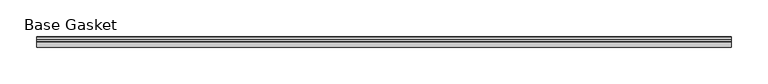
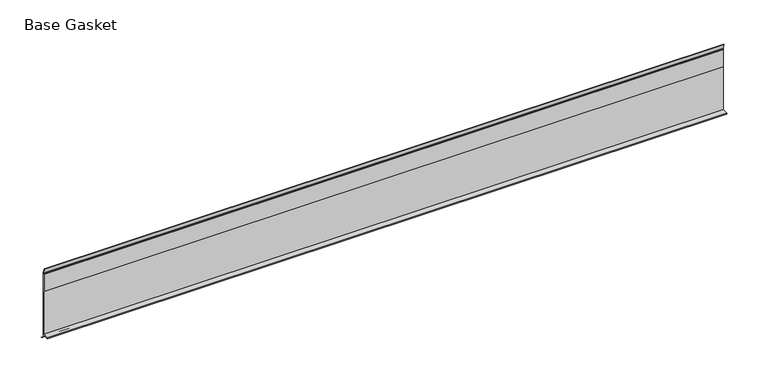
"""IFC4 building model written with IfcOpenShell, lengths in millimetres: furniture geometry, Gasket-Teknion-FHGB-AI_Healthcare-R2021 : Base Gasket."""

from ifc_helpers import new_model, si_unit, frame, origin, place, context, project, spatial, polyline, outline, extrude, source, transform, mapped, element, save


def base_gasket_0e477ec8(model_context):
    return source(origin(), model_context, "Body", "SweptSolid", [
        extrude(outline(polyline([(3.7283812, 98.4568417), (3.7283812, 4.3498477), (7.4222115, 0.6560174), (7.8482342, 0.0), (6.8281054, 0.3520979), (2.2043812, 4.3498477), (2.1334222, 6.3818476), (-6.2405171, 6.3818476), (-6.2405171, 7.9398773), (2.2043812, 7.9398773), (2.2043812, 71.4693447), (1.4106313, 71.4693447), (1.4106313, 96.8693477), (2.2043812, 96.8693477), (2.2043812, 98.4568417), (0.6755308, 104.4162708), (0.6755308, 105.2002997), (1.1891543, 104.587663), (3.7283812, 98.4568417)])), frame((-1527.8982117, 0.0, 0.0), z_axis=(1.0, 0.0, 0.0), x_axis=(0.0, 1.0, 0.0)), (0.0, 0.0, 1.0), 946.3092012),
    ])


if __name__ == "__main__":
    model = new_model("IFC4")
    model_context = context("Model", 3, world=origin())
    ifc_project = project(units=[si_unit("LENGTHUNIT", "METRE", prefix="MILLI")], contexts=[model_context])
    site = spatial("IfcSite", under=ifc_project)
    building = spatial("IfcBuilding", under=site)
    placement = place(None, origin())
    base_gasket_shape = base_gasket_0e477ec8(model_context)
    element("IfcFurniture", 1, ObjectType="Gasket-Teknion-FHGB-AI_Healthcare-R2021 : Base Gasket", at=placement, inside=building, context=model_context, shape_type="MappedRepresentation", body=[
        mapped(base_gasket_shape, transform((0.0, 0.0, 0.0), x_axis=(1.0, 0.0, 0.0), y_axis=(0.0, 1.0, 0.0), z_axis=(0.0, 0.0, 1.0))),
    ])
    save(model, "model.ifc")
